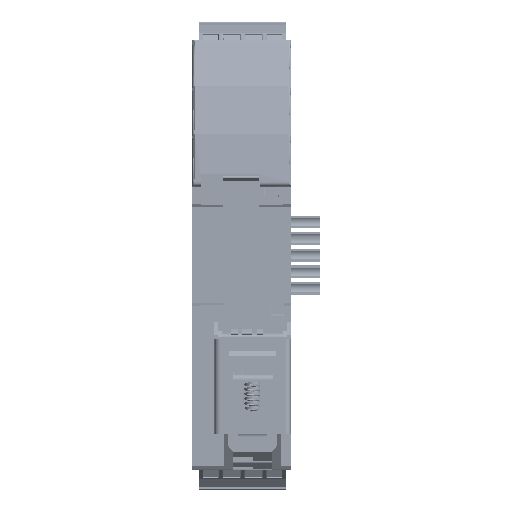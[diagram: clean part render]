
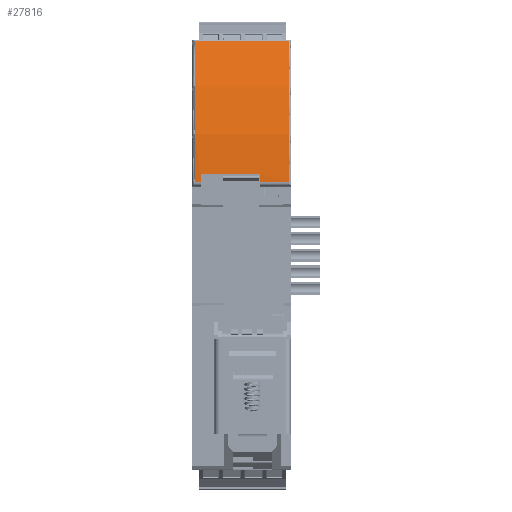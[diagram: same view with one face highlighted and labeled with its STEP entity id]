
A CAD part, left-side view. The second image highlights one B-rep face of the part: STEP entity #27816.
In plain terms, the highlighted cylindrical face has radius 80 mm (diameter 160 mm), a partial arc.
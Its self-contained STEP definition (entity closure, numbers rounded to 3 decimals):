
#27816=ADVANCED_FACE('',(#97148),#97150,.T.);
#97148=FACE_BOUND('',#97149,.T.);
#97149=EDGE_LOOP('',(#164997,#164998,#164999,#165000,#165001,#165002,#165003,#165004));
#97150=CYLINDRICAL_SURFACE('',#97151,80.);
#97151=AXIS2_PLACEMENT_3D('',#97152,#97153,#97154);
#97152=CARTESIAN_POINT('',(75.75,12.1,13.5));
#97153=DIRECTION('',(0.,-1.,0.));
#97154=DIRECTION('',(0.,0.,-1.));
#164997=ORIENTED_EDGE('',*,*,#209553,.F.);
#164998=ORIENTED_EDGE('',*,*,#209554,.T.);
#164999=ORIENTED_EDGE('',*,*,#209555,.F.);
#165000=ORIENTED_EDGE('',*,*,#209556,.F.);
#165001=ORIENTED_EDGE('',*,*,#209557,.T.);
#165002=ORIENTED_EDGE('',*,*,#209558,.T.);
#165003=ORIENTED_EDGE('',*,*,#206360,.T.);
#165004=ORIENTED_EDGE('',*,*,#206358,.T.);
#206358=EDGE_CURVE('',#236296,#236294,#236297,.T.);
#206360=EDGE_CURVE('',#236299,#236296,#236300,.T.);
#209553=EDGE_CURVE('',#241549,#236294,#241551,.T.);
#209554=EDGE_CURVE('',#241549,#241552,#241553,.T.);
#209555=EDGE_CURVE('',#241554,#241552,#241555,.T.);
#209556=EDGE_CURVE('',#241556,#241554,#241557,.T.);
#209557=EDGE_CURVE('',#241556,#241558,#241559,.T.);
#209558=EDGE_CURVE('',#241558,#236299,#241560,.T.);
#236294=VERTEX_POINT('',#291221);
#236296=VERTEX_POINT('',#291226);
#236297=LINE('',#291227,#291228);
#236299=VERTEX_POINT('',#291299);
#236300=CIRCLE('',#291300,80.);
#241549=VERTEX_POINT('',#304590);
#241551=CIRCLE('',#304594,80.);
#241552=VERTEX_POINT('',#304598);
#241553=LINE('',#304599,#304600);
#241554=VERTEX_POINT('',#304602);
#241555=CIRCLE('',#304603,80.);
#241556=VERTEX_POINT('',#304607);
#241557=LINE('',#304608,#304609);
#241558=VERTEX_POINT('',#304611);
#241559=CIRCLE('',#304612,80.);
#241560=LINE('',#304616,#304617);
#291221=CARTESIAN_POINT('',(-4.184,20.7,16.741));
#291226=CARTESIAN_POINT('',(-4.184,22.1,16.741));
#291227=CARTESIAN_POINT('',(-4.184,22.1,16.741));
#291228=VECTOR('',#291229,1.);
#291229=DIRECTION('',(0.,-1.,0.));
#291299=CARTESIAN_POINT('',(4.169,22.1,49.223));
#291300=AXIS2_PLACEMENT_3D('',#291301,#291302,#291303);
#291301=CARTESIAN_POINT('',(75.75,22.1,13.5));
#291302=DIRECTION('',(0.,-1.,0.));
#291303=DIRECTION('',(-0.895,0.,0.447));
#304590=CARTESIAN_POINT('',(-4.081,20.7,18.7));
#304594=AXIS2_PLACEMENT_3D('',#304595,#304596,#304597);
#304595=CARTESIAN_POINT('',(75.75,20.7,13.5));
#304596=DIRECTION('',(0.,-1.,0.));
#304597=DIRECTION('',(-0.998,0.,0.065));
#304598=CARTESIAN_POINT('',(-4.081,7.1,18.7));
#304599=CARTESIAN_POINT('',(-4.081,20.7,18.7));
#304600=VECTOR('',#304601,1.);
#304601=DIRECTION('',(0.,-1.,0.));
#304602=CARTESIAN_POINT('',(-4.184,7.1,16.741));
#304603=AXIS2_PLACEMENT_3D('',#304604,#304605,#304606);
#304604=CARTESIAN_POINT('',(75.75,7.1,13.5));
#304605=DIRECTION('',(0.,1.,0.));
#304606=DIRECTION('',(-0.999,0.,0.041));
#304607=CARTESIAN_POINT('',(-4.184,0.5,16.741));
#304608=CARTESIAN_POINT('',(-4.184,0.5,16.741));
#304609=VECTOR('',#304610,1.);
#304610=DIRECTION('',(0.,1.,0.));
#304611=CARTESIAN_POINT('',(4.169,0.5,49.223));
#304612=AXIS2_PLACEMENT_3D('',#304613,#304614,#304615);
#304613=CARTESIAN_POINT('',(75.75,0.5,13.5));
#304614=DIRECTION('',(0.,1.,0.));
#304615=DIRECTION('',(-0.999,0.,0.041));
#304616=CARTESIAN_POINT('',(4.169,0.5,49.223));
#304617=VECTOR('',#304618,1.);
#304618=DIRECTION('',(0.,1.,0.));
